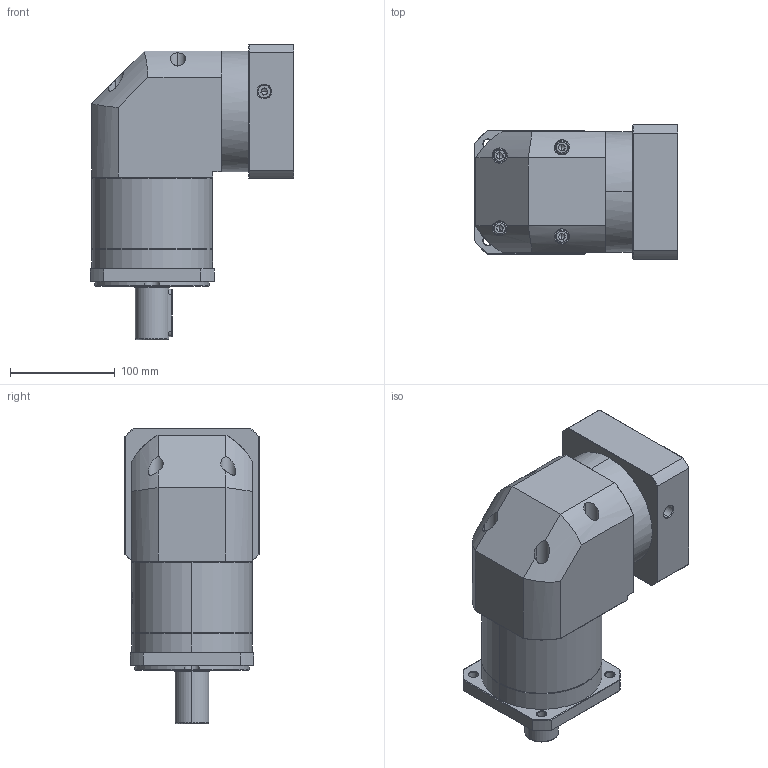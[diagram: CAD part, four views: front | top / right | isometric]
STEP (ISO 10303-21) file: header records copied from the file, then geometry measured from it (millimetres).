
FILE_DESCRIPTION (( 'STEP AP214' ), '1' );
FILE_NAME ('ZFR120A-D32-L2-P2-24-110-145-M8.step', '2023-08-27T08:09:49', ( '' ), ( '' ), 'SwSTEP 2.0', 'SolidWorks 2016', '' );
FILE_SCHEMA (( 'AUTOMOTIVE_DESIGN' ));
Length unit declared in the file: millimetre
Products named in the file (1): ZFR120A-D32-L2-P2-24-110-145-M8
Bounding box: 193.9 x 128 x 281.5 mm (x, y, z)
Volume: 3287263.6 mm3; surface area: 262442.5 mm2
Topology: 6 solids, 6 shells, 2265 faces, 5983 edges, 3823 vertices
Faces by surface type: plane 1061, cylinder 434, bspline 424, cone 338, torus 8
Entity records: 124438 total; most frequent: CARTESIAN_POINT 48988, ORIENTED_EDGE 11906, DIRECTION 8636, EDGE_CURVE 5953, VERTEX_POINT 3823, VECTOR 3160, LINE 3160, AXIS2_PLACEMENT_3D 2738
